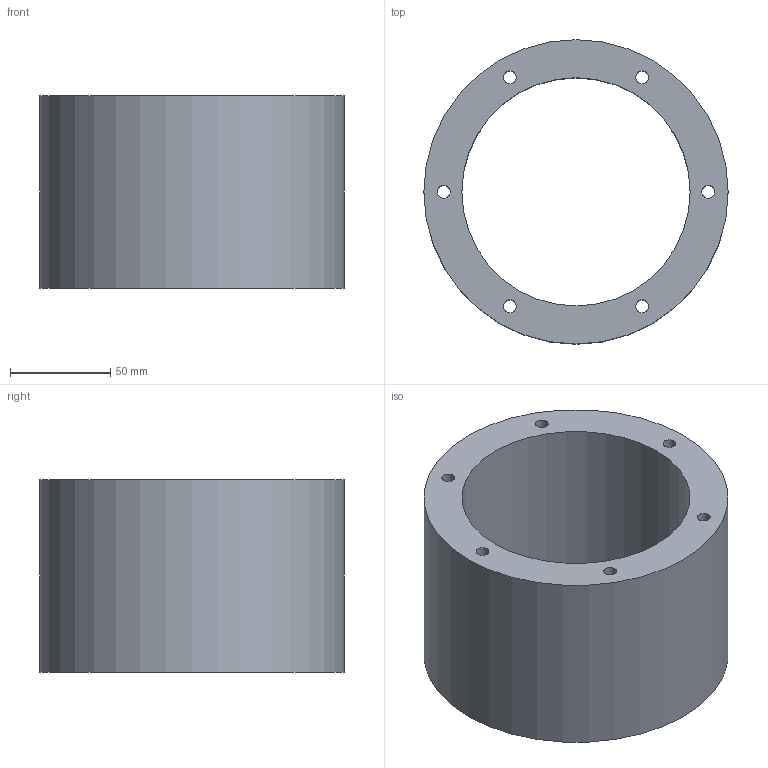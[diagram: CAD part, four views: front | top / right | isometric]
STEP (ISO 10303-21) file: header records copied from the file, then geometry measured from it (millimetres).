
FILE_DESCRIPTION(('Open CASCADE Model'),'2;1');
FILE_NAME('Open CASCADE Shape Model','2026-10-17T16:45:02',('Author'),( 'Open CASCADE'),'Open CASCADE STEP processor 8.0','build123d', 'Unknown');
FILE_SCHEMA(('AUTOMOTIVE_DESIGN { 1 0 10303 214 1 1 1 1 }'));
Length unit declared in the file: millimetre
Products named in the file (1): COMPOUND
Bounding box: 152 x 152 x 96 mm (x, y, z)
Volume: 743595.4 mm3; surface area: 107296.4 mm2
Topology: 1 solids, 1 shells, 10 faces, 24 edges, 16 vertices
Faces by surface type: cylinder 8, plane 2
Full cylindrical faces by diameter (mm): 6.4 x6, 114 x1, 152 x1
Entity records: 654 total; most frequent: DIRECTION 110, CARTESIAN_POINT 99, ORIENTED_EDGE 48, PCURVE 48, DEFINITIONAL_REPRESENTATION 48, LINE 40, VECTOR 40, CIRCLE 32
